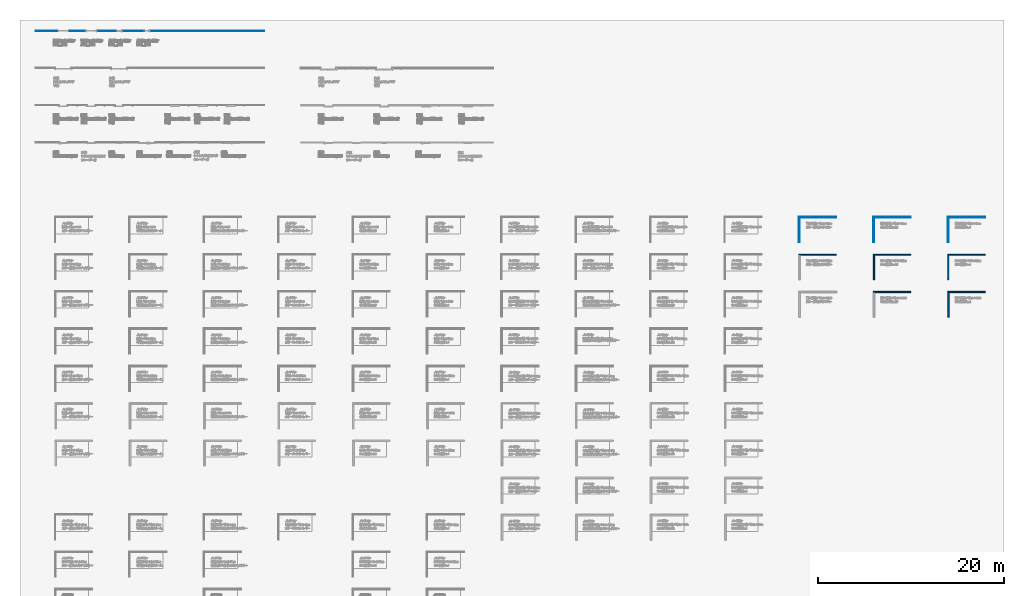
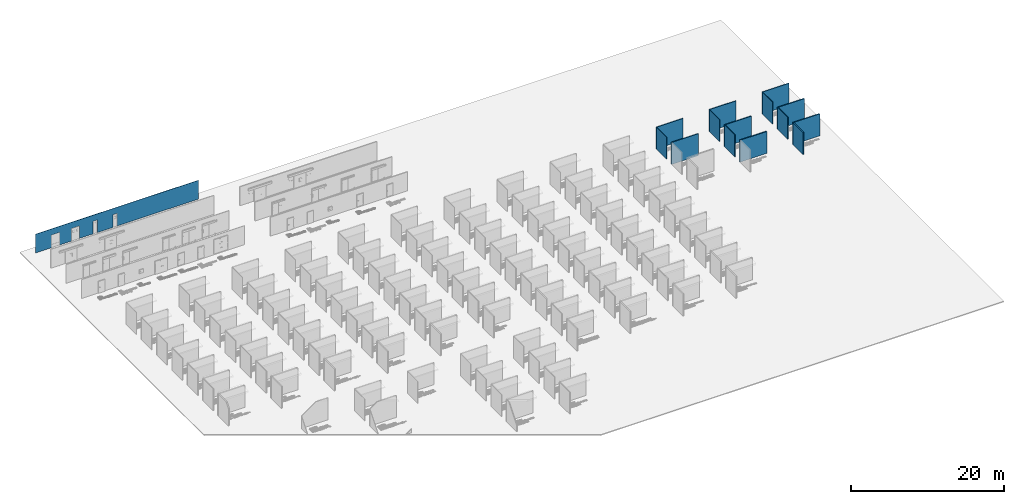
# One storey, part 5 of 16: 15 walls, 4 openings.
"""IFC2X3 building model written with IfcOpenShell, lengths in millimetres."""

from ifc_helpers import new_model, entity, si_unit, converted_unit, derived_unit, direction, frame, frame_2d, origin, place, context, subcontext, project, spatial, rectangle, extrude, material, layer, layer_set, layer_usage, type_object, element, save


model = new_model("IFC2X3")

# Units and contexts
model_context = context("Model", 3, precision=0.01, world=origin(), true_north=direction((6.123031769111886e-17, 1.0)))
body_context = subcontext(model_context, "Body", "Model", "MODEL_VIEW")
ifc_project = project(units=[si_unit("LENGTHUNIT", "METRE", prefix="MILLI"), si_unit("AREAUNIT", "SQUARE_METRE"), si_unit("VOLUMEUNIT", "CUBIC_METRE"), converted_unit("PLANEANGLEUNIT", "DEGREE", entity("IfcRatioMeasure", 0.017453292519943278), si_unit("PLANEANGLEUNIT", "RADIAN"), dimensions=[0, 0, 0, 0, 0, 0, 0]), si_unit("MASSUNIT", "GRAM", prefix="KILO"), derived_unit("MASSDENSITYUNIT", [(si_unit("MASSUNIT", "GRAM", prefix="KILO"), 1), (si_unit("LENGTHUNIT", "METRE"), -3)]), derived_unit("IONCONCENTRATIONUNIT", [(si_unit("MASSUNIT", "GRAM", prefix="KILO"), 1), (si_unit("LENGTHUNIT", "METRE"), -3)]), derived_unit("MOMENTOFINERTIAUNIT", [(si_unit("LENGTHUNIT", "METRE"), 4)]), si_unit("TIMEUNIT", "SECOND"), si_unit("FREQUENCYUNIT", "HERTZ"), si_unit("THERMODYNAMICTEMPERATUREUNIT", "DEGREE_CELSIUS"), derived_unit("THERMALTRANSMITTANCEUNIT", [(si_unit("MASSUNIT", "GRAM", prefix="KILO"), 1), (si_unit("THERMODYNAMICTEMPERATUREUNIT", "KELVIN"), -1), (si_unit("TIMEUNIT", "SECOND"), -3)]), derived_unit("THERMALCONDUCTANCEUNIT", [(si_unit("MASSUNIT", "GRAM", prefix="KILO"), 1), (si_unit("THERMODYNAMICTEMPERATUREUNIT", "KELVIN"), -1), (si_unit("TIMEUNIT", "SECOND"), -3), (si_unit("LENGTHUNIT", "METRE"), 1)]), derived_unit("VOLUMETRICFLOWRATEUNIT", [(si_unit("LENGTHUNIT", "METRE"), 3), (si_unit("TIMEUNIT", "SECOND"), -1)]), derived_unit("MASSFLOWRATEUNIT", [(si_unit("MASSUNIT", "GRAM", prefix="KILO"), 1), (si_unit("TIMEUNIT", "SECOND"), -1)]), derived_unit("ROTATIONALFREQUENCYUNIT", [(si_unit("TIMEUNIT", "SECOND"), -1)]), si_unit("ELECTRICCURRENTUNIT", "AMPERE"), si_unit("ELECTRICVOLTAGEUNIT", "VOLT"), si_unit("POWERUNIT", "WATT"), si_unit("FORCEUNIT", "NEWTON", prefix="KILO"), si_unit("ILLUMINANCEUNIT", "LUX"), si_unit("LUMINOUSFLUXUNIT", "LUMEN"), si_unit("LUMINOUSINTENSITYUNIT", "CANDELA"), derived_unit("USERDEFINED", [(si_unit("MASSUNIT", "GRAM", prefix="KILO"), -1), (si_unit("LENGTHUNIT", "METRE"), -2), (si_unit("TIMEUNIT", "SECOND"), 3), (si_unit("LUMINOUSFLUXUNIT", "LUMEN"), 1)]), derived_unit("USERDEFINED", [(si_unit("MASSUNIT", "GRAM", prefix="KILO"), 1), (si_unit("TIMEUNIT", "SECOND"), -3), (si_unit("LENGTHUNIT", "METRE"), 3), (si_unit("ELECTRICCURRENTUNIT", "AMPERE"), -2)]), derived_unit("SOUNDPOWERUNIT", [(si_unit("MASSUNIT", "GRAM", prefix="KILO"), 1), (si_unit("TIMEUNIT", "SECOND"), -3), (si_unit("LENGTHUNIT", "METRE"), 2)]), derived_unit("SOUNDPRESSUREUNIT", [(si_unit("MASSUNIT", "GRAM", prefix="KILO"), 1), (si_unit("LENGTHUNIT", "METRE"), -1), (si_unit("TIMEUNIT", "SECOND"), -2)]), derived_unit("LINEARVELOCITYUNIT", [(si_unit("LENGTHUNIT", "METRE"), 1), (si_unit("TIMEUNIT", "SECOND"), -1)]), si_unit("PRESSUREUNIT", "PASCAL"), derived_unit("USERDEFINED", [(si_unit("MASSUNIT", "GRAM", prefix="KILO"), 1), (si_unit("LENGTHUNIT", "METRE"), -2), (si_unit("TIMEUNIT", "SECOND"), -2)]), derived_unit("LINEARFORCEUNIT", [(si_unit("MASSUNIT", "GRAM", prefix="KILO"), 1), (si_unit("TIMEUNIT", "SECOND"), -2)]), derived_unit("PLANARFORCEUNIT", [(si_unit("MASSUNIT", "GRAM", prefix="KILO"), 1), (si_unit("LENGTHUNIT", "METRE"), -1), (si_unit("TIMEUNIT", "SECOND"), -2)]), derived_unit("SPECIFICHEATCAPACITYUNIT", [(si_unit("THERMODYNAMICTEMPERATUREUNIT", "KELVIN"), -1), (si_unit("LENGTHUNIT", "METRE"), 2), (si_unit("TIMEUNIT", "SECOND"), -2)]), derived_unit("HEATINGVALUEUNIT", [(si_unit("LENGTHUNIT", "METRE"), 2), (si_unit("TIMEUNIT", "SECOND"), -2)]), derived_unit("VAPORPERMEABILITYUNIT", [(si_unit("LENGTHUNIT", "METRE"), -1), (si_unit("TIMEUNIT", "SECOND"), 1)]), derived_unit("DYNAMICVISCOSITYUNIT", [(si_unit("MASSUNIT", "GRAM", prefix="KILO"), 1), (si_unit("TIMEUNIT", "SECOND"), -1), (si_unit("LENGTHUNIT", "METRE"), -1)]), derived_unit("THERMALEXPANSIONCOEFFICIENTUNIT", [(si_unit("THERMODYNAMICTEMPERATUREUNIT", "KELVIN"), -1)]), derived_unit("MODULUSOFELASTICITYUNIT", [(si_unit("MASSUNIT", "GRAM", prefix="KILO"), 1), (si_unit("LENGTHUNIT", "METRE"), -1), (si_unit("TIMEUNIT", "SECOND"), -2)]), derived_unit("ISOTHERMALMOISTURECAPACITYUNIT", [(si_unit("LENGTHUNIT", "METRE"), 3), (si_unit("MASSUNIT", "GRAM", prefix="KILO"), -1)]), derived_unit("MOISTUREDIFFUSIVITYUNIT", [(si_unit("TIMEUNIT", "SECOND"), -1), (si_unit("LENGTHUNIT", "METRE"), 2)])], contexts=[model_context])

# Site, building, storey
site_placement = place(None, origin())
site = spatial("IfcSite", under=ifc_project, at=site_placement, Name="Default", CompositionType="ELEMENT")
building_placement = place(site_placement, origin())
building = spatial("IfcBuilding", under=site, at=building_placement, CompositionType="ELEMENT")
storey_placement = place(building_placement, frame((0.0, 0.0, 500.0)))
storey = spatial("IfcBuildingStorey", under=building, at=storey_placement, Name="レベル 1", CompositionType="ELEMENT", Elevation=500.00000000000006)

# Wall, openings
ifc_material_1 = material(Name="g-p_硬質ウレタンフォーム")
ifc_layer_1 = layer(ifc_material_1, 44.0)
ifc_layer_set_1 = layer_set([ifc_layer_1], Name="標準壁:g-p_断熱パネル(フラット)t44")
ifc_layer_usage_1 = layer_usage(ifc_layer_set_1, "AXIS2", "NEGATIVE", 22.0)
wall_type_1 = type_object("IfcWallType", Name="標準壁:g-p_断熱パネル(フラット)t44", PredefinedType="STANDARD", material=ifc_layer_set_1)
wall_1_placement = place(storey_placement, frame((-26100.0, 32000.0, 0.0)))
wall_1 = element("IfcWallStandardCase", 1, at=wall_1_placement, inside=storey, type_object=wall_type_1, material=ifc_layer_usage_1, Name="標準壁:g-p_断熱パネル(フラット)t44", ObjectType="標準壁:g-p_断熱パネル(フラット)t44", context=body_context, shape_type="SweptSolid", body=[
    extrude(rectangle(XDim=24600.000000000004, YDim=43.99999999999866, at=frame_2d((12300.000000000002, 8.704148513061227e-14), x_axis=(1.0, 0.0))), origin(), (0.0, 0.0, 1.0), 3000.000000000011),
])
opening_1_placement = place(wall_1_placement, frame((2386.500000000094, -22.0, 0.0)))
element("IfcOpeningElement", 2, at=opening_1_placement, cuts=wall_1, Name="両開きスイングドア_窓付_FCG:W1215xH2005xt40:1", ObjectType="Opening", context=body_context, shape_type="SweptSolid", body=[
    extrude(rectangle(XDim=2010.9999999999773, YDim=1227.001029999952, at=frame_2d((1005.4999999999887, 613.5005149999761), x_axis=(-1.0, 0.0))), frame((0.0, 0.0, 0.0), z_axis=(0.0, 1.0, 0.0), x_axis=(0.0, 0.0, 1.0)), (0.0, 0.0, 1.0), 44.0),
])
opening_2_placement = place(wall_1_placement, frame((6613.500000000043, 22.0, 0.0)))
element("IfcOpeningElement", 3, at=opening_2_placement, cuts=wall_1, Name="両開きスイングドア_窓付_SCG:W1215xH2005xt21:1", ObjectType="Opening", context=body_context, shape_type="SweptSolid", body=[
    extrude(rectangle(XDim=2010.9999999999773, YDim=1227.001029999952, at=frame_2d((1005.4999999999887, 613.500514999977), x_axis=(-1.0, 0.0))), frame((0.0, 0.0, 0.0), z_axis=(0.0, -1.0, 0.0), x_axis=(0.0, 0.0, 1.0)), (0.0, 0.0, 1.0), 44.0),
])
opening_3_placement = place(wall_1_placement, frame((8689.0, -22.0, 0.0)))
element("IfcOpeningElement", 4, at=opening_3_placement, cuts=wall_1, Name="片開きスイングドア_窓付_FCG:W610xH2005xt40:1", ObjectType="Opening", context=body_context, shape_type="SweptSolid", body=[
    extrude(rectangle(XDim=2010.9999999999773, YDim=622.001029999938, at=frame_2d((1005.4999999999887, 311.0005149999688), x_axis=(-1.0, 0.0))), frame((0.0, 0.0, 0.0), z_axis=(0.0, 1.0, 0.0), x_axis=(0.0, 0.0, 1.0)), (0.0, 0.0, 1.0), 44.0),
])
opening_4_placement = place(wall_1_placement, frame((12311.001030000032, 22.0, 0.0)))
element("IfcOpeningElement", 5, at=opening_4_placement, cuts=wall_1, Name="片開きスイングドア_窓付_SCG:W610xH2005xt21:1", ObjectType="Opening", context=body_context, shape_type="SweptSolid", body=[
    extrude(rectangle(XDim=2010.9999999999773, YDim=622.0010299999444, at=frame_2d((1005.4999999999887, 311.0005149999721), x_axis=(-1.0, 0.0))), frame((0.0, 0.0, 0.0), z_axis=(0.0, -1.0, 0.0), x_axis=(0.0, 0.0, 1.0)), (0.0, 0.0, 1.0), 44.0),
])

# Walls
ifc_material_2 = material(Name="g-p_ロックウール")
ifc_layer_2 = layer(ifc_material_2, 100.0)
ifc_layer_set_2 = layer_set([ifc_layer_2], Name="標準壁:g-p_耐火断熱パネル(フラット)t100")
ifc_layer_usage_2 = layer_usage(ifc_layer_set_2, "AXIS2", "NEGATIVE", 49.99999999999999)
wall_type_2 = type_object("IfcWallType", Name="標準壁:g-p_耐火断熱パネル(フラット)t100", PredefinedType="STANDARD", material=ifc_layer_set_2)
wall_2_placement = place(storey_placement, frame((56000.0, 11950.0, 0.0)))
element("IfcWallStandardCase", 6, at=wall_2_placement, inside=storey, type_object=wall_type_2, material=ifc_layer_usage_2, Name="標準壁:g-p_耐火断熱パネル(フラット)t100", ObjectType="標準壁:g-p_耐火断熱パネル(フラット)t100", context=body_context, shape_type="SweptSolid", body=[
    extrude(rectangle(XDim=4028.0000000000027, YDim=99.99999999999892, at=frame_2d((2014.0000000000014, 4.618527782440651e-14), x_axis=(-1.0, 0.0))), origin(), (0.0, 0.0, 1.0), 3500.0000000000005),
])
wall_3_placement = place(storey_placement, frame((56050.0, 11900.0, 0.0), z_axis=(0.0, 0.0, 1.0), x_axis=(0.0, -1.0, 0.0)))
element("IfcWallStandardCase", 7, at=wall_3_placement, inside=storey, type_object=wall_type_2, material=ifc_layer_usage_2, Name="標準壁:g-p_耐火断熱パネル(フラット)t100", ObjectType="標準壁:g-p_耐火断熱パネル(フラット)t100", context=body_context, shape_type="SweptSolid", body=[
    extrude(rectangle(XDim=2649.9999999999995, YDim=99.9999999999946, at=frame_2d((1324.9999999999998, 9.841016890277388e-13), x_axis=(-1.0, 0.0))), origin(), (0.0, 0.0, 1.0), 3500.0000000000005),
])
wall_4_placement = place(storey_placement, frame((64000.0, 11950.0, 0.0)))
element("IfcWallStandardCase", 8, at=wall_4_placement, inside=storey, type_object=wall_type_2, material=ifc_layer_usage_2, Name="標準壁:g-p_耐火断熱パネル(フラット)t100", ObjectType="標準壁:g-p_耐火断熱パネル(フラット)t100", context=body_context, shape_type="SweptSolid", body=[
    extrude(rectangle(XDim=4028.0000000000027, YDim=99.99999999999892, at=frame_2d((2014.0000000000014, 4.618527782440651e-14), x_axis=(-1.0, 0.0))), origin(), (0.0, 0.0, 1.0), 3500.0000000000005),
])
wall_5_placement = place(storey_placement, frame((64050.0, 11900.0, 0.0), z_axis=(0.0, 0.0, 1.0), x_axis=(0.0, -1.0, 0.0)))
element("IfcWallStandardCase", 9, at=wall_5_placement, inside=storey, type_object=wall_type_2, material=ifc_layer_usage_2, Name="標準壁:g-p_耐火断熱パネル(フラット)t100", ObjectType="標準壁:g-p_耐火断熱パネル(フラット)t100", context=body_context, shape_type="SweptSolid", body=[
    extrude(rectangle(XDim=2649.9999999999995, YDim=99.9999999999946, at=frame_2d((1324.9999999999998, 9.841016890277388e-13), x_axis=(-1.0, 0.0))), origin(), (0.0, 0.0, 1.0), 3500.0000000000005),
])
wall_6_placement = place(storey_placement, frame((72000.0, 11950.0, 0.0)))
element("IfcWallStandardCase", 10, at=wall_6_placement, inside=storey, type_object=wall_type_2, material=ifc_layer_usage_2, Name="標準壁:g-p_耐火断熱パネル(フラット)t100", ObjectType="標準壁:g-p_耐火断熱パネル(フラット)t100", context=body_context, shape_type="SweptSolid", body=[
    extrude(rectangle(XDim=4028.0000000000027, YDim=99.99999999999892, at=frame_2d((2014.0000000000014, 4.618527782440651e-14), x_axis=(-1.0, 0.0))), origin(), (0.0, 0.0, 1.0), 3500.0000000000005),
])
wall_7_placement = place(storey_placement, frame((72050.0, 11900.0, 0.0), z_axis=(0.0, 0.0, 1.0), x_axis=(0.0, -1.0, 0.0)))
element("IfcWallStandardCase", 11, at=wall_7_placement, inside=storey, type_object=wall_type_2, material=ifc_layer_usage_2, Name="標準壁:g-p_耐火断熱パネル(フラット)t100", ObjectType="標準壁:g-p_耐火断熱パネル(フラット)t100", context=body_context, shape_type="SweptSolid", body=[
    extrude(rectangle(XDim=2649.9999999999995, YDim=99.9999999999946, at=frame_2d((1324.9999999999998, 9.841016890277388e-13), x_axis=(-1.0, 0.0))), origin(), (0.0, 0.0, 1.0), 3500.0000000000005),
])
ifc_layer_3 = layer(ifc_material_2, 125.00000000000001)
ifc_layer_set_3 = layer_set([ifc_layer_3], Name="標準壁:g-p_耐火断熱パネル(フラット)t125")
ifc_layer_usage_3 = layer_usage(ifc_layer_set_3, "AXIS2", "NEGATIVE", 62.49999999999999)
wall_type_3 = type_object("IfcWallType", Name="標準壁:g-p_耐火断熱パネル(フラット)t125", PredefinedType="STANDARD", material=ifc_layer_set_3)
for number, where in (
    (12, (56000.0, 7937.499999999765, 0.0)),
    (13, (64000.0, 7937.49999999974, 0.0)),
):
    element("IfcWallStandardCase", number, at=place(storey_placement, frame(where)), inside=storey, type_object=wall_type_3, material=ifc_layer_usage_3, Name="標準壁:g-p_耐火断熱パネル(フラット)t125", ObjectType="標準壁:g-p_耐火断熱パネル(フラット)t125", context=body_context, shape_type="SweptSolid", body=[
        extrude(rectangle(XDim=4037.5000000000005, YDim=124.99999999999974, at=frame_2d((2018.7500000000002, 5.684341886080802e-14), x_axis=(-1.0, 0.0))), origin(), (0.0, 0.0, 1.0), 3500.0000000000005),
    ])
wall_8_placement = place(storey_placement, frame((64062.50000000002, 7875.0, 0.0), z_axis=(0.0, 0.0, 1.0), x_axis=(0.0, -1.0, 0.0)))
element("IfcWallStandardCase", 14, at=wall_8_placement, inside=storey, type_object=wall_type_3, material=ifc_layer_usage_3, Name="標準壁:g-p_耐火断熱パネル(フラット)t125", ObjectType="標準壁:g-p_耐火断熱パネル(フラット)t125", context=body_context, shape_type="SweptSolid", body=[
    extrude(rectangle(XDim=2637.500000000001, YDim=125.00000000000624, at=frame_2d((1318.7500000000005, 9.556799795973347e-13), x_axis=(-1.0, 0.0))), origin(), (0.0, 0.0, 1.0), 3500.0000000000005),
])
wall_9_placement = place(storey_placement, frame((72000.0, 7937.4999999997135, 0.0)))
element("IfcWallStandardCase", 15, at=wall_9_placement, inside=storey, type_object=wall_type_3, material=ifc_layer_usage_3, Name="標準壁:g-p_耐火断熱パネル(フラット)t125", ObjectType="標準壁:g-p_耐火断熱パネル(フラット)t125", context=body_context, shape_type="SweptSolid", body=[
    extrude(rectangle(XDim=4037.5000000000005, YDim=124.99999999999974, at=frame_2d((2018.7500000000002, 5.684341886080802e-14), x_axis=(-1.0, 0.0))), origin(), (0.0, 0.0, 1.0), 3500.0000000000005),
])
wall_10_placement = place(storey_placement, frame((72062.50000000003, 7875.0, 0.0), z_axis=(0.0, 0.0, 1.0), x_axis=(0.0, -1.0, 0.0)))
element("IfcWallStandardCase", 16, at=wall_10_placement, inside=storey, type_object=wall_type_3, material=ifc_layer_usage_3, Name="標準壁:g-p_耐火断熱パネル(フラット)t125", ObjectType="標準壁:g-p_耐火断熱パネル(フラット)t125", context=body_context, shape_type="SweptSolid", body=[
    extrude(rectangle(XDim=2637.500000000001, YDim=125.00000000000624, at=frame_2d((1318.7500000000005, 9.556799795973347e-13), x_axis=(-1.0, 0.0))), origin(), (0.0, 0.0, 1.0), 3500.0000000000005),
])
ifc_layer_4 = layer(ifc_material_2, 150.0)
ifc_layer_set_4 = layer_set([ifc_layer_4], Name="標準壁:g-p_耐火断熱パネル(フラット)t150")
ifc_layer_usage_4 = layer_usage(ifc_layer_set_4, "AXIS2", "NEGATIVE", 75.0)
wall_type_4 = type_object("IfcWallType", Name="標準壁:g-p_耐火断熱パネル(フラット)t150", PredefinedType="STANDARD", material=ifc_layer_set_4)
for number, where in (
    (17, (64000.0, 3925.0, 0.0)),
    (18, (72000.0, 3925.0, 0.0)),
):
    element("IfcWallStandardCase", number, at=place(storey_placement, frame(where)), inside=storey, type_object=wall_type_4, material=ifc_layer_usage_4, Name="標準壁:g-p_耐火断熱パネル(フラット)t150", ObjectType="標準壁:g-p_耐火断熱パネル(フラット)t150", context=body_context, shape_type="SweptSolid", body=[
        extrude(rectangle(XDim=4043.9999999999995, YDim=149.99999999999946, at=frame_2d((2021.9999999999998, 7.105427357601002e-14), x_axis=(-1.0, 0.0))), origin(), (0.0, 0.0, 1.0), 3500.0000000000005),
    ])
wall_11_placement = place(storey_placement, frame((72075.0, 3850.0, 0.0), z_axis=(0.0, 0.0, 1.0), x_axis=(0.0, -1.0, 0.0)))
element("IfcWallStandardCase", 19, at=wall_11_placement, inside=storey, type_object=wall_type_4, material=ifc_layer_usage_4, Name="標準壁:g-p_耐火断熱パネル(フラット)t150", ObjectType="標準壁:g-p_耐火断熱パネル(フラット)t150", context=body_context, shape_type="SweptSolid", body=[
    extrude(rectangle(XDim=2625.0, YDim=150.00000000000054, at=frame_2d((1312.5, 9.308109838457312e-13), x_axis=(-1.0, 0.0))), origin(), (0.0, 0.0, 1.0), 3500.0000000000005),
])

save(model, "model.ifc")
